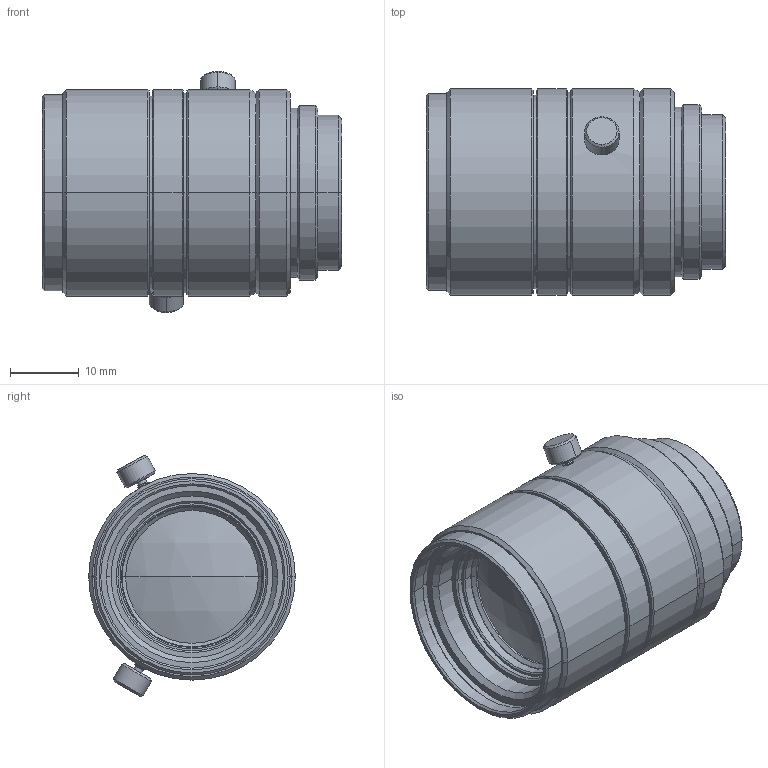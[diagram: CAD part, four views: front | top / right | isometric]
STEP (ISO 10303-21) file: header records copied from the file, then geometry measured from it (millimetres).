
FILE_DESCRIPTION (( 'STEP AP203' ), '1' );
FILE_NAME ('SV-2514H.STEP', '2013-12-12T09:19:55', ( '設計用PC' ), ( '株式会社 ヴイ・エス・テクノロジー' ), 'SwSTEP 2.0', 'SolidWorks 2012', '' );
FILE_SCHEMA (( 'CONFIG_CONTROL_DESIGN' ));
Length unit declared in the file: millimetre
Products named in the file (1): SV-2514H
Bounding box: 43.48 x 30 x 35.01 mm (x, y, z)
Volume: 24391.3 mm3; surface area: 6403.7 mm2
Topology: 1 solids, 1 shells, 119 faces, 236 edges, 136 vertices
Faces by surface type: cone 52, cylinder 46, plane 17, sphere 4
Entity records: 3185 total; most frequent: DIRECTION 606, CARTESIAN_POINT 556, ORIENTED_EDGE 472, AXIS2_PLACEMENT_3D 254, EDGE_CURVE 236, EDGE_LOOP 136, VERTEX_POINT 136, CIRCLE 134
